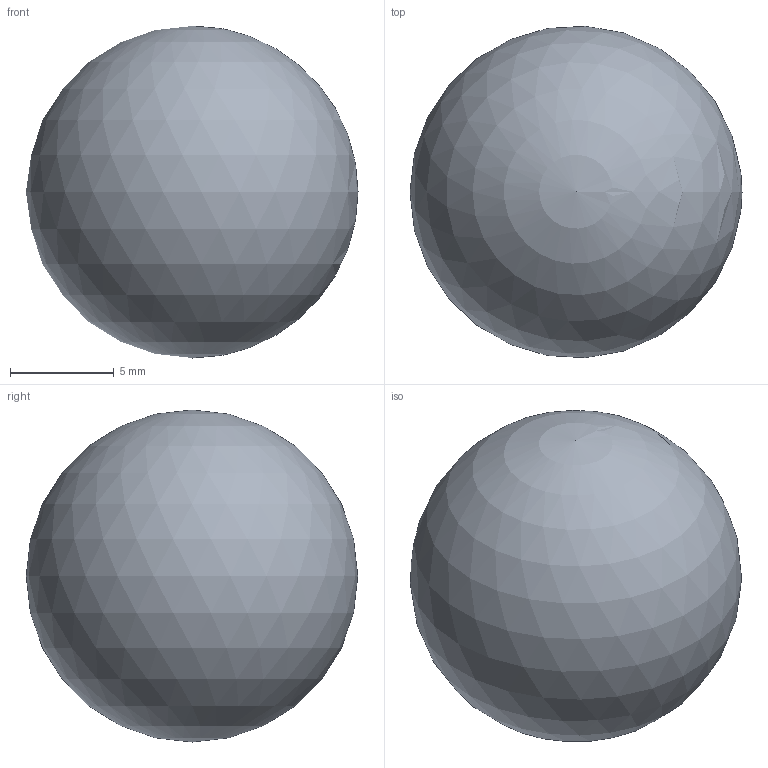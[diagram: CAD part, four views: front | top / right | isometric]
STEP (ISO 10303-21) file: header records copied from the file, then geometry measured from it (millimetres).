
FILE_DESCRIPTION(('Open CASCADE Model'),'2;1');
FILE_NAME('Open CASCADE Shape Model','2019-05-09T11:08:25',('Author'),( 'Open CASCADE'),'Open CASCADE STEP processor 6.9','Open CASCADE 6.9' ,'Unknown');
FILE_SCHEMA(('AUTOMOTIVE_DESIGN { 1 0 10303 214 1 1 1 1 }'));
Length unit declared in the file: millimetre
Products named in the file (1): XFlow STEP translator 6
Bounding box: 16 x 15.97 x 16 mm (x, y, z)
Surface area: 804.2 mm2 (no closed solid volume)
Topology: 0 solids, 1 shells, 1 faces, 3 edges, 2 vertices
Faces by surface type: sphere 1
Entity records: 28 total; most frequent: DIRECTION 4, CARTESIAN_POINT 3, AXIS2_PLACEMENT_3D 2, APPLICATION_PROTOCOL_DEFINITION 1, APPLICATION_CONTEXT 1, SHAPE_DEFINITION_REPRESENTATION 1, PRODUCT_DEFINITION_SHAPE 1, PRODUCT_DEFINITION 1
